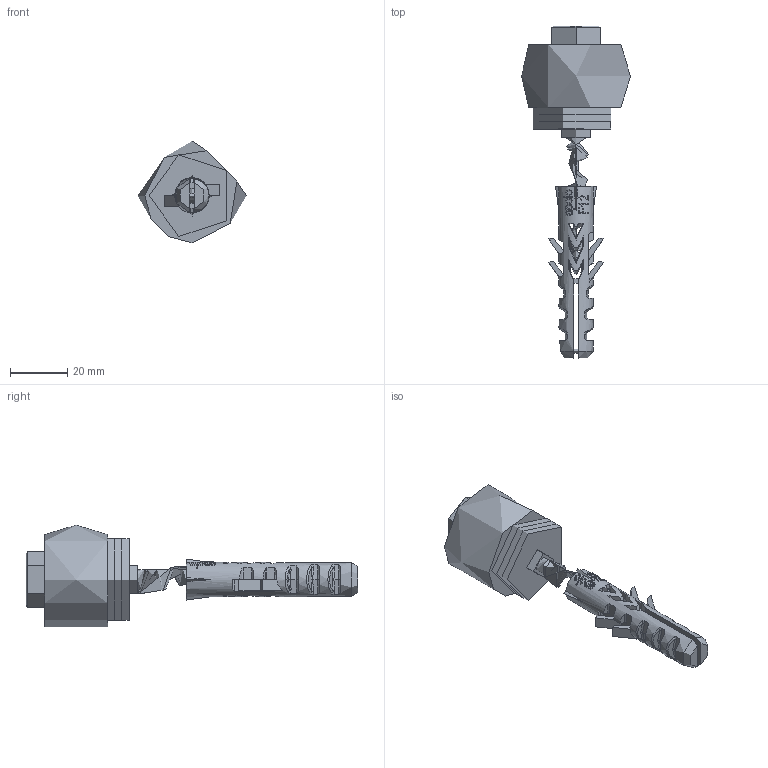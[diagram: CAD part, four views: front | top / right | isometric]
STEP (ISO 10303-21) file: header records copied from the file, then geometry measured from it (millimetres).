
FILE_DESCRIPTION(/* description */ ('Kunststoff Rolle Ø38'),/* implementation_level */ '2;1');
FILE_NAME(/* name */ 'Q:\sge-ma\Produktmanagement-STB\STB\Workspace\TraceParts\Führungsrolle Nylon mit Dübel\010337824.stp',/* time_stamp */ '2018-03-07T11:54:53+01:00',/* author */ ('avschreier'),/* organization */ (''),/* preprocessor_version */ 'ST-DEVELOPER v16.1',/* originating_system */ 'Autodesk Inventor 2016',/* authorisation */ '');
FILE_SCHEMA (('CONFIG_CONTROL_DESIGN'));
Length unit declared in the file: millimetre
Products named in the file (7): 337000175; 337000172; DIN 571 - 10 x 80; DIN_EN_ISO_7090-10,5_en; DIN_EN_ISO_7093-10,5_en; Dubel_F12; 010337824
Assembly tree (8 placements, depth 2):
  010337824
    337000175
    337000172
    DIN 571 - 10 x 80
    DIN_EN_ISO_7090-10,5_en
    DIN_EN_ISO_7093-10,5_en  x3
    Dubel_F12
Bounding box: 38.01 x 116 x 35.51 mm (x, y, z)
Volume: 35325.5 mm3; surface area: 19948.6 mm2
Topology: 8 solids, 8 shells, 416 faces, 1114 edges, 725 vertices
Faces by surface type: plane 218, bspline 109, cylinder 86, cone 3
Full cylindrical faces by diameter (mm): 1.44 x1, 7 x9, 9.48 x1, 10 x1, 10.5 x5, 12 x1, 14 x1, 14.5 x1, 20 x1, 21 x1, 30 x3
Entity records: 19049 total; most frequent: CARTESIAN_POINT 9237, ORIENTED_EDGE 2094, DIRECTION 1641, EDGE_CURVE 1047, VERTEX_POINT 689, LINE 567, VECTOR 567, AXIS2_PLACEMENT_3D 537
